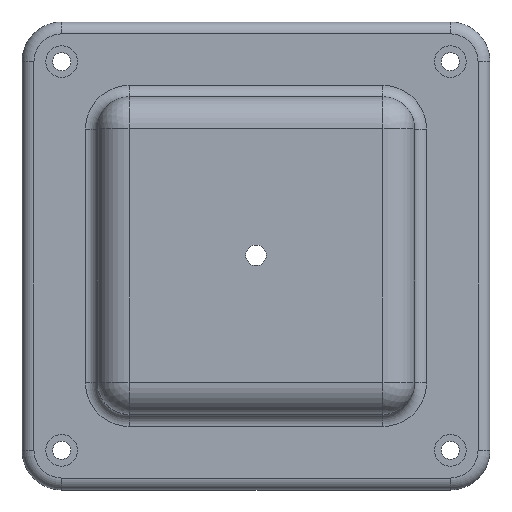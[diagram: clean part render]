
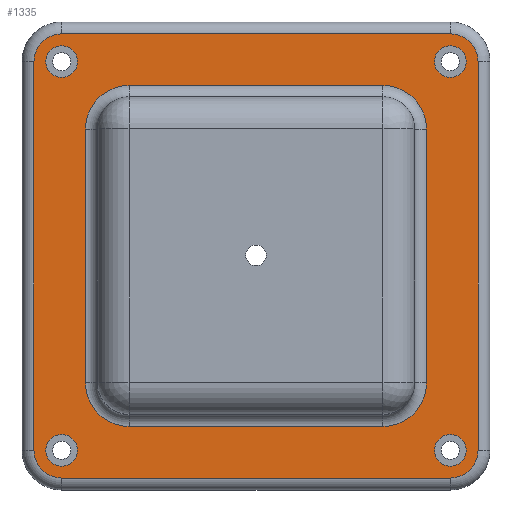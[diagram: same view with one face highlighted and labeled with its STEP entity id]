
A CAD part, top view. The second image highlights one B-rep face of the part: STEP entity #1335.
In plain terms, the highlighted planar face has unit normal (0, 0, 1).
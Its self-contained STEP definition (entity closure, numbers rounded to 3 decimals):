
#58=FACE_BOUND($,#445,.T.);
#59=FACE_BOUND($,#446,.T.);
#60=FACE_BOUND($,#447,.T.);
#61=FACE_BOUND($,#448,.T.);
#62=FACE_BOUND($,#449,.T.);
#105=PLANE($,#1492);
#145=LINE($,#2243,#209);
#147=LINE($,#2255,#211);
#148=LINE($,#2264,#212);
#149=LINE($,#2272,#213);
#154=LINE($,#2289,#218);
#155=LINE($,#2293,#219);
#156=LINE($,#2297,#220);
#157=LINE($,#2300,#221);
#209=VECTOR($,#1777,64.);
#211=VECTOR($,#1791,64.);
#212=VECTOR($,#1804,64.);
#213=VECTOR($,#1815,64.);
#218=VECTOR($,#1834,98.);
#219=VECTOR($,#1837,98.);
#220=VECTOR($,#1840,98.);
#221=VECTOR($,#1843,98.);
#329=FACE_OUTER_BOUND($,#444,.T.);
#444=EDGE_LOOP($,(#1080,#1081,#1082,#1083,#1084,#1085,#1086,#1087));
#445=EDGE_LOOP($,(#1088));
#446=EDGE_LOOP($,(#1089));
#447=EDGE_LOOP($,(#1090));
#448=EDGE_LOOP($,(#1091));
#449=EDGE_LOOP($,(#1092,#1093,#1094,#1095,#1096,#1097,#1098,#1099));
#578=CIRCLE($,#1465,11.);
#584=CIRCLE($,#1473,11.);
#588=CIRCLE($,#1479,11.);
#592=CIRCLE($,#1485,11.);
#595=CIRCLE($,#1493,7.);
#596=CIRCLE($,#1494,7.);
#597=CIRCLE($,#1495,7.);
#598=CIRCLE($,#1496,7.);
#599=CIRCLE($,#1497,4.);
#600=CIRCLE($,#1498,4.);
#601=CIRCLE($,#1499,4.);
#602=CIRCLE($,#1500,4.);
#700=VERTEX_POINT($,#2234);
#701=VERTEX_POINT($,#2236);
#702=VERTEX_POINT($,#2241);
#703=VERTEX_POINT($,#2245);
#705=VERTEX_POINT($,#2251);
#707=VERTEX_POINT($,#2257);
#708=VERTEX_POINT($,#2262);
#709=VERTEX_POINT($,#2266);
#713=VERTEX_POINT($,#2285);
#714=VERTEX_POINT($,#2286);
#715=VERTEX_POINT($,#2288);
#716=VERTEX_POINT($,#2290);
#717=VERTEX_POINT($,#2292);
#718=VERTEX_POINT($,#2294);
#719=VERTEX_POINT($,#2296);
#720=VERTEX_POINT($,#2298);
#721=VERTEX_POINT($,#2301);
#722=VERTEX_POINT($,#2303);
#723=VERTEX_POINT($,#2305);
#724=VERTEX_POINT($,#2307);
#832=EDGE_CURVE($,#700,#701,#578,.T.);
#836=EDGE_CURVE($,#701,#702,#145,.T.);
#839=EDGE_CURVE($,#702,#703,#584,.T.);
#842=EDGE_CURVE($,#703,#705,#147,.T.);
#845=EDGE_CURVE($,#705,#707,#588,.T.);
#847=EDGE_CURVE($,#707,#708,#148,.T.);
#850=EDGE_CURVE($,#708,#709,#592,.T.);
#851=EDGE_CURVE($,#709,#700,#149,.T.);
#858=EDGE_CURVE($,#713,#714,#595,.T.);
#859=EDGE_CURVE($,#715,#713,#154,.T.);
#860=EDGE_CURVE($,#716,#715,#596,.T.);
#861=EDGE_CURVE($,#717,#716,#155,.T.);
#862=EDGE_CURVE($,#718,#717,#597,.T.);
#863=EDGE_CURVE($,#719,#718,#156,.T.);
#864=EDGE_CURVE($,#720,#719,#598,.T.);
#865=EDGE_CURVE($,#714,#720,#157,.T.);
#866=EDGE_CURVE($,#721,#721,#599,.T.);
#867=EDGE_CURVE($,#722,#722,#600,.T.);
#868=EDGE_CURVE($,#723,#723,#601,.T.);
#869=EDGE_CURVE($,#724,#724,#602,.T.);
#1080=ORIENTED_EDGE($,*,*,#858,.F.);
#1081=ORIENTED_EDGE($,*,*,#859,.F.);
#1082=ORIENTED_EDGE($,*,*,#860,.F.);
#1083=ORIENTED_EDGE($,*,*,#861,.F.);
#1084=ORIENTED_EDGE($,*,*,#862,.F.);
#1085=ORIENTED_EDGE($,*,*,#863,.F.);
#1086=ORIENTED_EDGE($,*,*,#864,.F.);
#1087=ORIENTED_EDGE($,*,*,#865,.F.);
#1088=ORIENTED_EDGE($,*,*,#866,.T.);
#1089=ORIENTED_EDGE($,*,*,#867,.T.);
#1090=ORIENTED_EDGE($,*,*,#868,.T.);
#1091=ORIENTED_EDGE($,*,*,#869,.T.);
#1092=ORIENTED_EDGE($,*,*,#832,.F.);
#1093=ORIENTED_EDGE($,*,*,#851,.F.);
#1094=ORIENTED_EDGE($,*,*,#850,.F.);
#1095=ORIENTED_EDGE($,*,*,#847,.F.);
#1096=ORIENTED_EDGE($,*,*,#845,.F.);
#1097=ORIENTED_EDGE($,*,*,#842,.F.);
#1098=ORIENTED_EDGE($,*,*,#839,.F.);
#1099=ORIENTED_EDGE($,*,*,#836,.F.);
#1335=ADVANCED_FACE($,(#329,#58,#59,#60,#61,#62),#105,.T.);
#1465=AXIS2_PLACEMENT_3D($,#2237,#1767,#1768);
#1473=AXIS2_PLACEMENT_3D($,#2249,#1784,#1785);
#1479=AXIS2_PLACEMENT_3D($,#2260,#1798,#1799);
#1485=AXIS2_PLACEMENT_3D($,#2270,#1811,#1812);
#1492=AXIS2_PLACEMENT_3D($,#2284,#1830,#1831);
#1493=AXIS2_PLACEMENT_3D($,#2287,#1832,#1833);
#1494=AXIS2_PLACEMENT_3D($,#2291,#1835,#1836);
#1495=AXIS2_PLACEMENT_3D($,#2295,#1838,#1839);
#1496=AXIS2_PLACEMENT_3D($,#2299,#1841,#1842);
#1497=AXIS2_PLACEMENT_3D($,#2302,#1844,#1845);
#1498=AXIS2_PLACEMENT_3D($,#2304,#1846,#1847);
#1499=AXIS2_PLACEMENT_3D($,#2306,#1848,#1849);
#1500=AXIS2_PLACEMENT_3D($,#2308,#1850,#1851);
#1767=DIRECTION('center_axis',(0.,0.,1.));
#1768=DIRECTION('ref_axis',(0.707,-0.707,0.));
#1777=DIRECTION($,(0.,1.,0.));
#1784=DIRECTION('center_axis',(0.,0.,1.));
#1785=DIRECTION('ref_axis',(0.707,0.707,0.));
#1791=DIRECTION($,(-1.,0.,0.));
#1798=DIRECTION('center_axis',(0.,0.,1.));
#1799=DIRECTION('ref_axis',(-0.707,0.707,0.));
#1804=DIRECTION($,(0.,-1.,0.));
#1811=DIRECTION('center_axis',(0.,0.,1.));
#1812=DIRECTION('ref_axis',(-0.707,-0.707,0.));
#1815=DIRECTION($,(1.,0.,0.));
#1830=DIRECTION('center_axis',(0.,0.,1.));
#1831=DIRECTION('ref_axis',(1.,0.,0.));
#1832=DIRECTION('center_axis',(0.,0.,-1.));
#1833=DIRECTION('ref_axis',(-0.707,-0.707,0.));
#1834=DIRECTION($,(-1.,0.,0.));
#1835=DIRECTION('center_axis',(0.,0.,-1.));
#1836=DIRECTION('ref_axis',(0.707,-0.707,0.));
#1837=DIRECTION($,(0.,-1.,0.));
#1838=DIRECTION('center_axis',(0.,0.,-1.));
#1839=DIRECTION('ref_axis',(0.707,0.707,0.));
#1840=DIRECTION($,(1.,0.,0.));
#1841=DIRECTION('center_axis',(0.,0.,-1.));
#1842=DIRECTION('ref_axis',(-0.707,0.707,0.));
#1843=DIRECTION($,(0.,1.,0.));
#1844=DIRECTION('center_axis',(0.,0.,-1.));
#1845=DIRECTION('ref_axis',(-1.,0.,0.));
#1846=DIRECTION('center_axis',(0.,0.,-1.));
#1847=DIRECTION('ref_axis',(-1.,0.,0.));
#1848=DIRECTION('center_axis',(0.,0.,-1.));
#1849=DIRECTION('ref_axis',(-1.,0.,0.));
#1850=DIRECTION('center_axis',(0.,0.,-1.));
#1851=DIRECTION('ref_axis',(-1.,0.,0.));
#2234=CARTESIAN_POINT('',(32.,-43.,10.));
#2236=CARTESIAN_POINT('',(43.,-32.,10.));
#2237=CARTESIAN_POINT('Origin',(32.,-32.,10.));
#2241=CARTESIAN_POINT('',(43.,32.,10.));
#2243=CARTESIAN_POINT($,(43.,-20.,10.));
#2245=CARTESIAN_POINT('',(32.,43.,10.));
#2249=CARTESIAN_POINT('Origin',(32.,32.,10.));
#2251=CARTESIAN_POINT('',(-32.,43.,10.));
#2255=CARTESIAN_POINT($,(20.,43.,10.));
#2257=CARTESIAN_POINT('',(-43.,32.,10.));
#2260=CARTESIAN_POINT('Origin',(-32.,32.,10.));
#2262=CARTESIAN_POINT('',(-43.,-32.,10.));
#2264=CARTESIAN_POINT($,(-43.,20.,10.));
#2266=CARTESIAN_POINT('',(-32.,-43.,10.));
#2270=CARTESIAN_POINT('Origin',(-32.,-32.,10.));
#2272=CARTESIAN_POINT($,(-20.,-43.,10.));
#2284=CARTESIAN_POINT('Origin',(0.,0.,10.));
#2285=CARTESIAN_POINT('',(-49.,-56.,10.));
#2286=CARTESIAN_POINT('',(-56.,-49.,10.));
#2287=CARTESIAN_POINT('Origin',(-49.,-49.,10.));
#2288=CARTESIAN_POINT('',(49.,-56.,10.));
#2289=CARTESIAN_POINT($,(-29.5,-56.,10.));
#2290=CARTESIAN_POINT('',(56.,-49.,10.));
#2291=CARTESIAN_POINT('Origin',(49.,-49.,10.));
#2292=CARTESIAN_POINT('',(56.,49.,10.));
#2293=CARTESIAN_POINT($,(56.,-29.5,10.));
#2294=CARTESIAN_POINT('',(49.,56.,10.));
#2295=CARTESIAN_POINT('Origin',(49.,49.,10.));
#2296=CARTESIAN_POINT('',(-49.,56.,10.));
#2297=CARTESIAN_POINT($,(29.5,56.,10.));
#2298=CARTESIAN_POINT('',(-56.,49.,10.));
#2299=CARTESIAN_POINT('Origin',(-49.,49.,10.));
#2300=CARTESIAN_POINT($,(-56.,29.5,10.));
#2301=CARTESIAN_POINT('',(-45.,49.,10.));
#2302=CARTESIAN_POINT('Origin',(-49.,49.,10.));
#2303=CARTESIAN_POINT('',(53.,49.,10.));
#2304=CARTESIAN_POINT('Origin',(49.,49.,10.));
#2305=CARTESIAN_POINT('',(-45.,-49.,10.));
#2306=CARTESIAN_POINT('Origin',(-49.,-49.,10.));
#2307=CARTESIAN_POINT('',(53.,-49.,10.));
#2308=CARTESIAN_POINT('Origin',(49.,-49.,10.));
